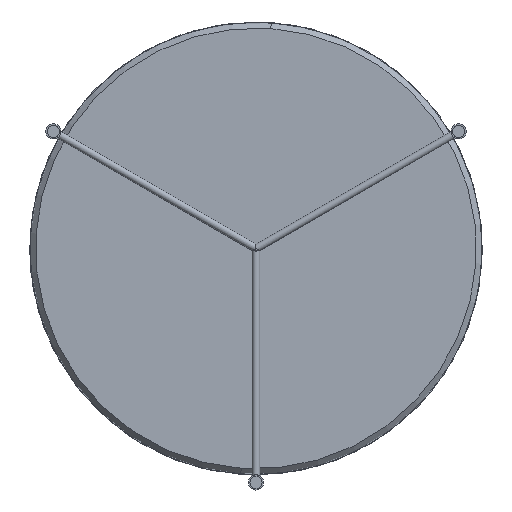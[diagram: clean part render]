
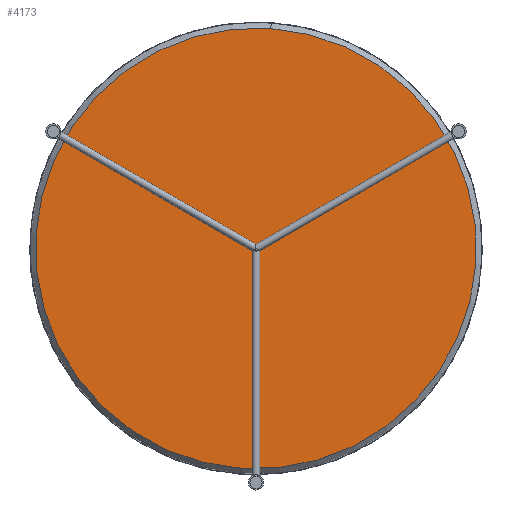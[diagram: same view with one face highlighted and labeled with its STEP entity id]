
A CAD part, front view. The second image highlights one B-rep face of the part: STEP entity #4173.
In plain terms, the highlighted planar face has unit normal (0, -1, 0).
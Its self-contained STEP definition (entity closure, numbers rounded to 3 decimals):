
#74 = CARTESIAN_POINT ( 'NONE',  ( 0., 0., -292. ) ) ;
#154 = DIRECTION ( 'NONE',  ( 0., 0., -1. ) ) ;
#465 = CIRCLE ( 'NONE', #1133, 292. ) ;
#696 = CARTESIAN_POINT ( 'NONE',  ( 0., 0., 0. ) ) ;
#1133 = AXIS2_PLACEMENT_3D ( 'NONE', #2393, #2015, #154 ) ;
#1364 = FACE_OUTER_BOUND ( 'NONE', #3221, .T. ) ;
#1746 = PLANE ( 'NONE',  #2666 ) ;
#1769 = DIRECTION ( 'NONE',  ( 0., 0., -1. ) ) ;
#1993 = CARTESIAN_POINT ( 'NONE',  ( 0., 0., 0. ) ) ;
#2015 = DIRECTION ( 'NONE',  ( 0., -1., 0. ) ) ;
#2129 = DIRECTION ( 'NONE',  ( 0., -1., 0. ) ) ;
#2266 = VERTEX_POINT ( 'NONE', #2333 ) ;
#2333 = CARTESIAN_POINT ( 'NONE',  ( 0., 0., 292. ) ) ;
#2393 = CARTESIAN_POINT ( 'NONE',  ( 0., 0., 0. ) ) ;
#2519 = ORIENTED_EDGE ( 'NONE', *, *, #2792, .T. ) ;
#2585 = VERTEX_POINT ( 'NONE', #74 ) ;
#2666 = AXIS2_PLACEMENT_3D ( 'NONE', #696, #2129, #1769 ) ;
#2792 = EDGE_CURVE ( 'NONE', #2266, #2585, #4477, .T. ) ;
#2794 = ORIENTED_EDGE ( 'NONE', *, *, #2805, .T. ) ;
#2805 = EDGE_CURVE ( 'NONE', #2585, #2266, #465, .T. ) ;
#3131 = DIRECTION ( 'NONE',  ( 0., 0., -1. ) ) ;
#3221 = EDGE_LOOP ( 'NONE', ( #2519, #2794 ) ) ;
#3446 = DIRECTION ( 'NONE',  ( 0., -1., 0. ) ) ;
#3642 = AXIS2_PLACEMENT_3D ( 'NONE', #1993, #3446, #3131 ) ;
#4173 = ADVANCED_FACE ( 'NONE', ( #1364 ), #1746, .T. ) ;
#4477 = CIRCLE ( 'NONE', #3642, 292. ) ;
